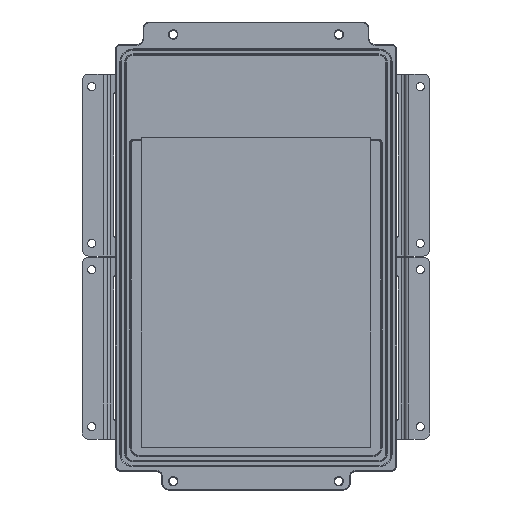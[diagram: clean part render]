
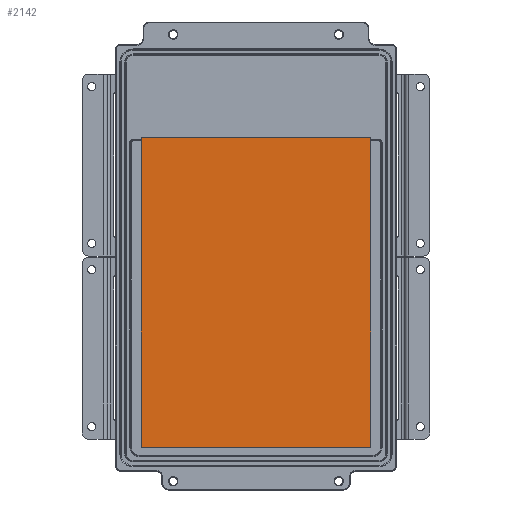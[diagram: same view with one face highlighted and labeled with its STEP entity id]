
A CAD part, front view. The second image highlights one B-rep face of the part: STEP entity #2142.
In plain terms, the highlighted planar face has unit normal (0, -1, 0).
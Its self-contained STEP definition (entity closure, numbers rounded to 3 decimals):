
#2142 = ADVANCED_FACE ( 'NONE', ( #11967 ), #93546, .F. ) ;
#3685 = CARTESIAN_POINT ( 'NONE',  ( -89.5, -29.5, -151. ) ) ;
#5983 = CARTESIAN_POINT ( 'NONE',  ( 93.5, -29.5, 96. ) ) ;
#11967 = FACE_OUTER_BOUND ( 'NONE', #62480, .T. ) ;
#13871 = DIRECTION ( 'NONE',  ( 1., 0., 0. ) ) ;
#15917 = DIRECTION ( 'NONE',  ( 0., 0., 1. ) ) ;
#17132 = CARTESIAN_POINT ( 'NONE',  ( 93.5, -29.5, -151. ) ) ;
#22789 = VECTOR ( 'NONE', #15917, 1000. ) ;
#24823 = AXIS2_PLACEMENT_3D ( 'NONE', #68317, #44219, #36676 ) ;
#32451 = EDGE_CURVE ( 'NONE', #34250, #100459, #88968, .T. ) ;
#34250 = VERTEX_POINT ( 'NONE', #93446 ) ;
#35522 = EDGE_CURVE ( 'NONE', #49946, #49739, #73937, .T. ) ;
#36676 = DIRECTION ( 'NONE',  ( 0., 0., -1. ) ) ;
#38525 = VECTOR ( 'NONE', #90568, 1000. ) ;
#39097 = CARTESIAN_POINT ( 'NONE',  ( -89.5, -29.5, 96. ) ) ;
#40736 = CARTESIAN_POINT ( 'NONE',  ( 93.5, -29.5, -151. ) ) ;
#44219 = DIRECTION ( 'NONE',  ( 0., 1., 0. ) ) ;
#45707 = ORIENTED_EDGE ( 'NONE', *, *, #78161, .F. ) ;
#49739 = VERTEX_POINT ( 'NONE', #3685 ) ;
#49946 = VERTEX_POINT ( 'NONE', #40736 ) ;
#56166 = LINE ( 'NONE', #66319, #22789 ) ;
#59935 = CARTESIAN_POINT ( 'NONE',  ( 93.5, -29.5, -151. ) ) ;
#62480 = EDGE_LOOP ( 'NONE', ( #102073, #84002, #45707, #99028 ) ) ;
#66319 = CARTESIAN_POINT ( 'NONE',  ( -89.5, -29.5, -151. ) ) ;
#68317 = CARTESIAN_POINT ( 'NONE',  ( 93.5, -29.5, -151. ) ) ;
#71085 = EDGE_CURVE ( 'NONE', #49946, #100459, #74020, .T. ) ;
#73937 = LINE ( 'NONE', #59935, #38525 ) ;
#74020 = LINE ( 'NONE', #17132, #76370 ) ;
#74216 = VECTOR ( 'NONE', #13871, 1000. ) ;
#76370 = VECTOR ( 'NONE', #81001, 1000. ) ;
#78161 = EDGE_CURVE ( 'NONE', #49739, #34250, #56166, .T. ) ;
#81001 = DIRECTION ( 'NONE',  ( 0., 0., 1. ) ) ;
#84002 = ORIENTED_EDGE ( 'NONE', *, *, #32451, .F. ) ;
#88968 = LINE ( 'NONE', #39097, #74216 ) ;
#90568 = DIRECTION ( 'NONE',  ( -1., 0., 0. ) ) ;
#93446 = CARTESIAN_POINT ( 'NONE',  ( -89.5, -29.5, 96. ) ) ;
#93546 = PLANE ( 'NONE',  #24823 ) ;
#99028 = ORIENTED_EDGE ( 'NONE', *, *, #35522, .F. ) ;
#100459 = VERTEX_POINT ( 'NONE', #5983 ) ;
#102073 = ORIENTED_EDGE ( 'NONE', *, *, #71085, .T. ) ;
